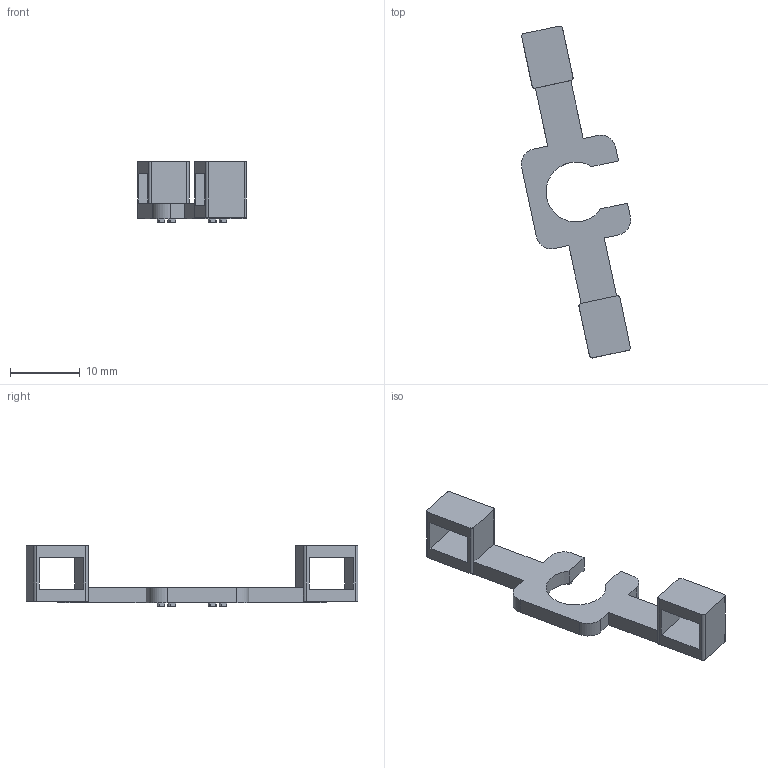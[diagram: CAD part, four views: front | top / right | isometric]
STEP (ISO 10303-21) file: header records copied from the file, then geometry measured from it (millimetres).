
FILE_DESCRIPTION(('Open CASCADE Model'),'2;1');
FILE_NAME('Open CASCADE Shape Model','2026-10-23T20:21:33',('Author'),( 'Open CASCADE'),'Open CASCADE STEP processor 7.8','Open CASCADE 7.8' ,'Unknown');
FILE_SCHEMA(('AUTOMOTIVE_DESIGN { 1 0 10303 214 1 1 1 1 }'));
Length unit declared in the file: millimetre
Products named in the file (1): Open CASCADE STEP translator 7.8 5
Bounding box: 15.71 x 47.66 x 8.75 mm (x, y, z)
Volume: 885.6 mm3; surface area: 1402.8 mm2
Topology: 1 solids, 1 shells, 90 faces, 248 edges, 164 vertices
Faces by surface type: plane 57, cylinder 33
Entity records: 6198 total; most frequent: CARTESIAN_POINT 1179, DIRECTION 962, LINE 612, VECTOR 612, ORIENTED_EDGE 496, PCURVE 496, DEFINITIONAL_REPRESENTATION 496, EDGE_CURVE 248
